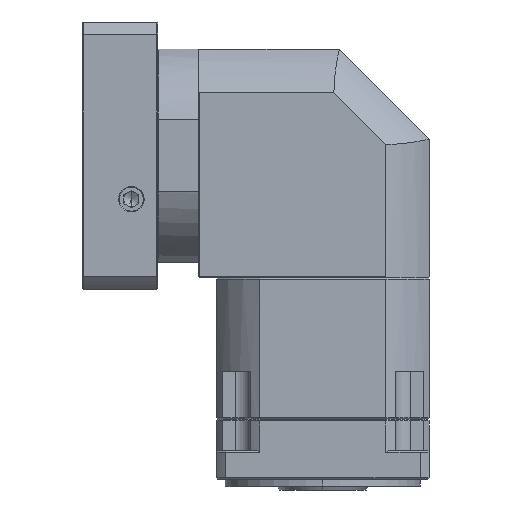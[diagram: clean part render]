
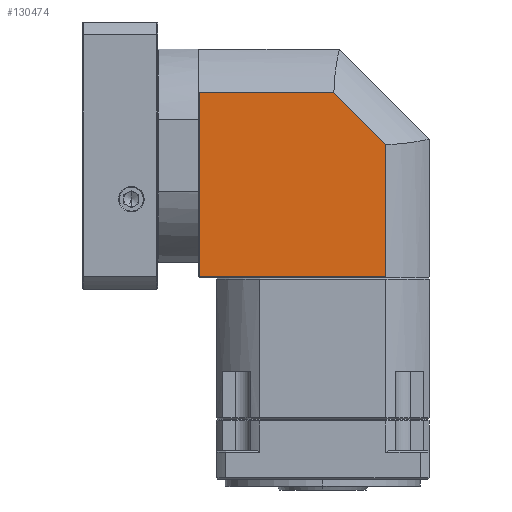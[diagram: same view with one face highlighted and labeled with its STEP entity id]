
A CAD part, left-side view. The second image highlights one B-rep face of the part: STEP entity #130474.
In plain terms, the highlighted planar face has unit normal (-1, 0, 0).
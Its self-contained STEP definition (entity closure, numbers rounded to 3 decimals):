
#667 = CARTESIAN_POINT ( 'NONE',  ( -157.918, 40.89, 27.32 ) ) ;
#3353 = EDGE_LOOP ( 'NONE', ( #24155, #66907, #10594, #40703, #95964 ) ) ;
#5063 = VECTOR ( 'NONE', #122706, 1000. ) ;
#6389 = VERTEX_POINT ( 'NONE', #73409 ) ;
#8431 = VECTOR ( 'NONE', #42682, 1000. ) ;
#10594 = ORIENTED_EDGE ( 'NONE', *, *, #35421, .T. ) ;
#12594 = DIRECTION ( 'NONE',  ( 0., -1., 0. ) ) ;
#15269 = CARTESIAN_POINT ( 'NONE',  ( -157.918, 40.89, 14.878 ) ) ;
#19894 = DIRECTION ( 'NONE',  ( 0., 0., -1. ) ) ;
#20105 = CARTESIAN_POINT ( 'NONE',  ( -157.918, -188.514, 61.993 ) ) ;
#24155 = ORIENTED_EDGE ( 'NONE', *, *, #62428, .F. ) ;
#31940 = LINE ( 'NONE', #81975, #5063 ) ;
#34296 = CARTESIAN_POINT ( 'NONE',  ( -157.918, 75.563, 61.993 ) ) ;
#35300 = LINE ( 'NONE', #122871, #8431 ) ;
#35421 = EDGE_CURVE ( 'NONE', #59699, #107857, #31940, .T. ) ;
#38825 = CARTESIAN_POINT ( 'NONE',  ( -157.918, 40.89, -60.722 ) ) ;
#40703 = ORIENTED_EDGE ( 'NONE', *, *, #106964, .T. ) ;
#42682 = DIRECTION ( 'NONE',  ( 0., 0.707, 0.707 ) ) ;
#52438 = LINE ( 'NONE', #93220, #130064 ) ;
#59699 = VERTEX_POINT ( 'NONE', #110586 ) ;
#62428 = EDGE_CURVE ( 'NONE', #6389, #89965, #79521, .T. ) ;
#66141 = DIRECTION ( 'NONE',  ( 0., 0., 1. ) ) ;
#66907 = ORIENTED_EDGE ( 'NONE', *, *, #92099, .F. ) ;
#68607 = PLANE ( 'NONE',  #74683 ) ;
#71123 = VECTOR ( 'NONE', #66141, 1000. ) ;
#73409 = CARTESIAN_POINT ( 'NONE',  ( -157.918, 164.905, 61.993 ) ) ;
#74683 = AXIS2_PLACEMENT_3D ( 'NONE', #130560, #109332, #19894 ) ;
#79521 = LINE ( 'NONE', #20105, #87424 ) ;
#81975 = CARTESIAN_POINT ( 'NONE',  ( -157.918, 88.655, -60.722 ) ) ;
#83068 = DIRECTION ( 'NONE',  ( 0., 0., 1. ) ) ;
#83842 = LINE ( 'NONE', #15269, #71123 ) ;
#87424 = VECTOR ( 'NONE', #12594, 1000. ) ;
#89965 = VERTEX_POINT ( 'NONE', #34296 ) ;
#92099 = EDGE_CURVE ( 'NONE', #59699, #6389, #52438, .T. ) ;
#92662 = VERTEX_POINT ( 'NONE', #667 ) ;
#93220 = CARTESIAN_POINT ( 'NONE',  ( -157.918, 164.905, 14.878 ) ) ;
#95964 = ORIENTED_EDGE ( 'NONE', *, *, #116308, .T. ) ;
#106964 = EDGE_CURVE ( 'NONE', #107857, #92662, #83842, .T. ) ;
#107857 = VERTEX_POINT ( 'NONE', #38825 ) ;
#109332 = DIRECTION ( 'NONE',  ( -1., 0., 0. ) ) ;
#110586 = CARTESIAN_POINT ( 'NONE',  ( -157.918, 164.905, -60.722 ) ) ;
#116308 = EDGE_CURVE ( 'NONE', #92662, #89965, #35300, .T. ) ;
#119519 = FACE_OUTER_BOUND ( 'NONE', #3353, .T. ) ;
#122706 = DIRECTION ( 'NONE',  ( 0., -1., 0. ) ) ;
#122871 = CARTESIAN_POINT ( 'NONE',  ( -157.918, 40.89, 27.32 ) ) ;
#130064 = VECTOR ( 'NONE', #83068, 1000. ) ;
#130474 = ADVANCED_FACE ( 'NONE', ( #119519 ), #68607, .T. ) ;
#130560 = CARTESIAN_POINT ( 'NONE',  ( -157.918, 88.655, 14.878 ) ) ;
